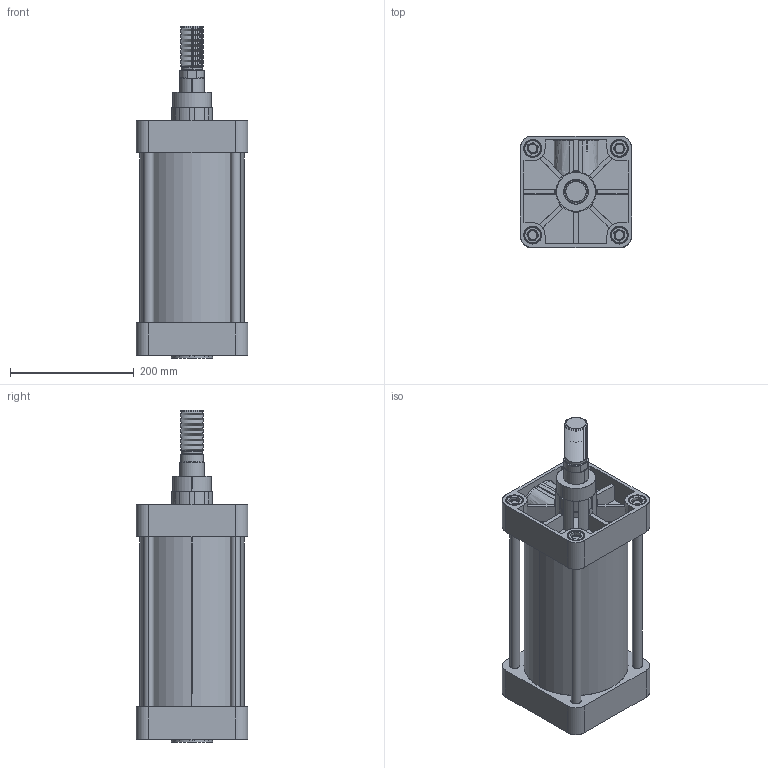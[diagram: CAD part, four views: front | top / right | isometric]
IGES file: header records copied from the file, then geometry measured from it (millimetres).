
Start section: SolidWorks IGES file using analytic representation for surfaces
Global section: file name: c:\CATALO3D\IGS\XJ160.0200.IGS; native system: SolidWorks 2005 by SolidWorks Corporation; preprocessor: SolidWorks 2005 by SolidWorks Corporation; author: tania; date: 051025.170334; units: millimetre
Bounding box: 180 x 180 x 536 mm (x, y, z)
Surface area: 902992.8 mm2 (no closed solid volume)
Topology: 0 solids, 0 shells, 1483 faces, 23958 edges, 30358 vertices
Faces by surface type: revolution 1220, bspline 263
